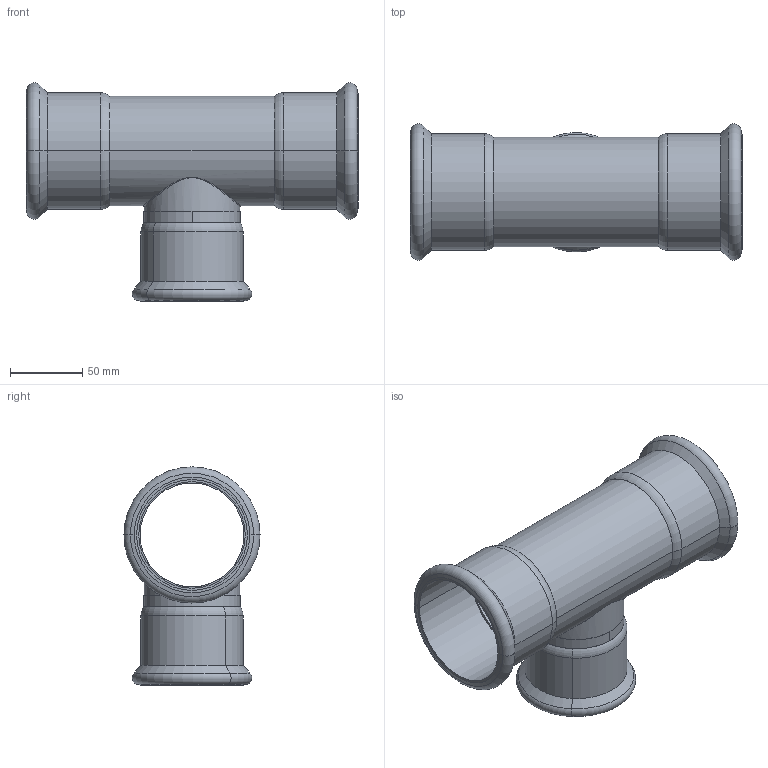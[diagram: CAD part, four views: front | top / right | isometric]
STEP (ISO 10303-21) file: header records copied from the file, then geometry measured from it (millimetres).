
FILE_DESCRIPTION(('CoCreate Modeling STEP Export'),'2;1');
FILE_NAME('C1415 76.1x66.7x76.1.stp','2015-08-10T14:37:33',(''),(''),'CoCreate Modeling STEP processor for AP214 (Solid Model)','CoCreate Modeling 17.00A 17-Jun-2010 (C) Parametric Technology GmbH','');
FILE_SCHEMA(('AUTOMOTIVE_DESIGN { 1 0 10303 214 1 1 1 1 }'));
Length unit declared in the file: millimetre
Products named in the file (7): THUIS_GEKR_761x667; 624163.1; 624273.1; 624157.6; HALS667; 624158.7; C1415-76.1x66.7x76.1
Assembly tree (7 placements, depth 3):
  C1415-76.1x66.7x76.1
    624158.7
      HALS667
      624157.6
    624273.1
      624163.1  x2
      THUIS_GEKR_761x667
Bounding box: 230.38 x 94.48 x 151.43 mm (x, y, z)
Volume: 187130.9 mm3; surface area: 148055.2 mm2
Topology: 5 solids, 5 shells, 85 faces, 182 edges, 114 vertices
Faces by surface type: cylinder 36, plane 17, cone 16, torus 12, bspline 4
Entity records: 7381 total; most frequent: CARTESIAN_POINT 6025, ORIENTED_EDGE 276, DIRECTION 212, EDGE_CURVE 138, VERTEX_POINT 88, AXIS2_PLACEMENT_3D 87, EDGE_LOOP 78, FACE_OUTER_BOUND 63
